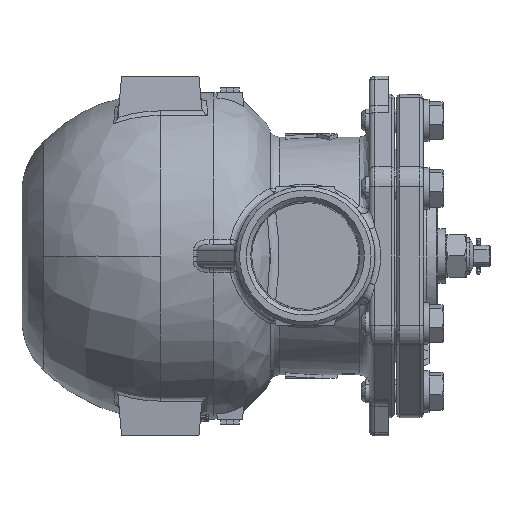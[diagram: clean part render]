
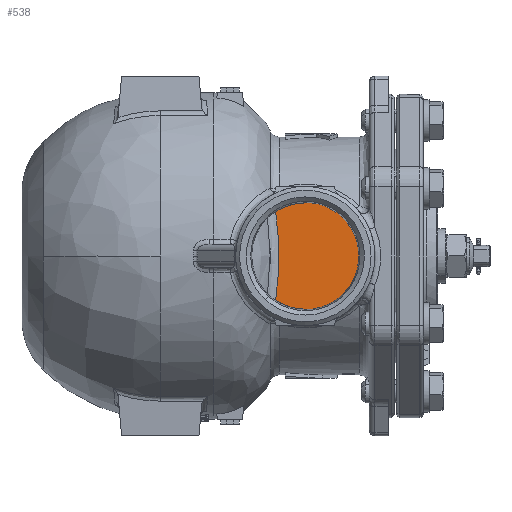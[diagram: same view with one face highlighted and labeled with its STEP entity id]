
A CAD part, left-side view. The second image highlights one B-rep face of the part: STEP entity #538.
In plain terms, the highlighted planar face has unit normal (-1, 0, 0) as drawn and (0, 1, 0) by its records, which use the part's own axes.
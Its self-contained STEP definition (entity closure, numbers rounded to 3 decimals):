
#538=ADVANCED_FACE('',(#1668),#1667,.T.);
#1667=PLANE('',#9346);
#1668=FACE_OUTER_BOUND('',#9347,.T.);
#9343=CARTESIAN_POINT('',(-110.086,61.5,-36.58));
#9344=DIRECTION('',(0.,1.,0.));
#9345=DIRECTION('',(0.,0.,1.));
#9346=AXIS2_PLACEMENT_3D('',#9343,#9344,#9345);
#9347=EDGE_LOOP('',(#22750,#22751,#22752,#22753,#22754,#22755,#22756,#22757,#22758));
#22750=ORIENTED_EDGE('',*,*,#27443,.T.);
#22751=ORIENTED_EDGE('',*,*,#27284,.T.);
#22752=ORIENTED_EDGE('',*,*,#27444,.F.);
#22753=ORIENTED_EDGE('',*,*,#27445,.F.);
#22754=ORIENTED_EDGE('',*,*,#27446,.F.);
#22755=ORIENTED_EDGE('',*,*,#27447,.F.);
#22756=ORIENTED_EDGE('',*,*,#27448,.F.);
#22757=ORIENTED_EDGE('',*,*,#27449,.F.);
#22758=ORIENTED_EDGE('',*,*,#27290,.T.);
#27284=EDGE_CURVE('',#29890,#29882,#29891,.T.);
#27290=EDGE_CURVE('',#29911,#29925,#29932,.T.);
#27443=EDGE_CURVE('',#29925,#29890,#30971,.T.);
#27444=EDGE_CURVE('',#30977,#29882,#30978,.T.);
#27445=EDGE_CURVE('',#30984,#30977,#30985,.T.);
#27446=EDGE_CURVE('',#30991,#30984,#30992,.T.);
#27447=EDGE_CURVE('',#30998,#30991,#30999,.T.);
#27448=EDGE_CURVE('',#31005,#30998,#31006,.T.);
#27449=EDGE_CURVE('',#29911,#31005,#31012,.T.);
#29882=VERTEX_POINT('',#45738);
#29890=VERTEX_POINT('',#45748);
#29891=(BOUNDED_CURVE() B_SPLINE_CURVE(3,(#45749,#45750,#45751,#45752,#45753,#45754,#45755),.UNSPECIFIED.,.F.,.F.) B_SPLINE_CURVE_WITH_KNOTS((4,1,1,1,4),(0.,4.055,8.38,12.705,17.3),.UNSPECIFIED.) CURVE() GEOMETRIC_REPRESENTATION_ITEM() RATIONAL_B_SPLINE_CURVE((1.,1.,1.,1.,1.,1.,1.)) REPRESENTATION_ITEM('') );
#29911=VERTEX_POINT('',#45772);
#29925=VERTEX_POINT('',#45789);
#29932=(BOUNDED_CURVE() B_SPLINE_CURVE(3,(#45794,#45795,#45796,#45797,#45798,#45799,#45800),.UNSPECIFIED.,.F.,.F.) B_SPLINE_CURVE_WITH_KNOTS((4,1,1,1,4),(0.,4.866,8.92,13.516,17.3),.UNSPECIFIED.) CURVE() GEOMETRIC_REPRESENTATION_ITEM() RATIONAL_B_SPLINE_CURVE((1.,1.,1.,1.,1.,1.,1.)) REPRESENTATION_ITEM('') );
#30971=(BOUNDED_CURVE() B_SPLINE_CURVE(3,(#46659,#46660,#46661,#46662,#46663,#46664,#46665,#46666,#46667,#46668),.UNSPECIFIED.,.F.,.F.) B_SPLINE_CURVE_WITH_KNOTS((4,2,2,2,4),(0.,0.25,0.5,0.75,1.),.UNSPECIFIED.) CURVE() GEOMETRIC_REPRESENTATION_ITEM() RATIONAL_B_SPLINE_CURVE((1.,1.,1.,1.,1.,1.,1.,1.,1.,1.)) REPRESENTATION_ITEM('') );
#30977=VERTEX_POINT('',#46669);
#30978=LINE('',#46670,#46671);
#30984=VERTEX_POINT('',#46673);
#30985=(BOUNDED_CURVE() B_SPLINE_CURVE(3,(#46674,#46675,#46676,#46677,#46678,#46679,#46680,#46681),.UNSPECIFIED.,.F.,.F.) B_SPLINE_CURVE_WITH_KNOTS((4,1,1,1,1,4),(23.753,24.921,30.051,34.449,38.114,46.909),.UNSPECIFIED.) CURVE() GEOMETRIC_REPRESENTATION_ITEM() RATIONAL_B_SPLINE_CURVE((1.,1.,1.,1.,1.,1.,1.,1.)) REPRESENTATION_ITEM('') );
#30991=VERTEX_POINT('',#46682);
#30992=(BOUNDED_CURVE() B_SPLINE_CURVE(3,(#46683,#46684,#46685,#46686,#46687,#46688,#46689,#46690),.UNSPECIFIED.,.F.,.F.) B_SPLINE_CURVE_WITH_KNOTS((4,1,1,1,1,4),(0.,4.764,10.628,15.026,18.324,23.753),.UNSPECIFIED.) CURVE() GEOMETRIC_REPRESENTATION_ITEM() RATIONAL_B_SPLINE_CURVE((1.,1.,1.,1.,1.,1.,1.,1.)) REPRESENTATION_ITEM('') );
#30998=VERTEX_POINT('',#46691);
#30999=(BOUNDED_CURVE() B_SPLINE_CURVE(3,(#46692,#46693,#46694,#46695,#46696,#46697,#46698,#46699),.UNSPECIFIED.,.F.,.F.) B_SPLINE_CURVE_WITH_KNOTS((4,1,1,1,1,4),(0.,5.284,8.681,13.965,19.627,24.156),.UNSPECIFIED.) CURVE() GEOMETRIC_REPRESENTATION_ITEM() RATIONAL_B_SPLINE_CURVE((1.,1.,1.,1.,1.,1.,1.,1.)) REPRESENTATION_ITEM('') );
#31005=VERTEX_POINT('',#46700);
#31006=(BOUNDED_CURVE() B_SPLINE_CURVE(3,(#46701,#46702,#46703,#46704,#46705,#46706,#46707),.UNSPECIFIED.,.F.,.F.) B_SPLINE_CURVE_WITH_KNOTS((4,1,1,1,4),(0.,4.622,9.599,14.576,22.753),.UNSPECIFIED.) CURVE() GEOMETRIC_REPRESENTATION_ITEM() RATIONAL_B_SPLINE_CURVE((1.,1.,1.,1.,1.,1.,1.)) REPRESENTATION_ITEM('') );
#31012=LINE('',#46708,#46709);
#45738=CARTESIAN_POINT('',(-76.,61.5,-27.482));
#45748=CARTESIAN_POINT('',(-59.638,61.5,-22.809));
#45749=CARTESIAN_POINT('',(-59.638,61.5,-22.809));
#45750=CARTESIAN_POINT('',(-60.759,61.5,-23.564));
#45751=CARTESIAN_POINT('',(-63.191,61.5,-24.953));
#45752=CARTESIAN_POINT('',(-67.157,61.5,-26.476));
#45753=CARTESIAN_POINT('',(-71.489,61.5,-27.397));
#45754=CARTESIAN_POINT('',(-74.469,61.5,-27.538));
#45755=CARTESIAN_POINT('',(-76.,61.5,-27.482));
#45772=CARTESIAN_POINT('',(-76.,61.5,27.482));
#45789=CARTESIAN_POINT('',(-59.638,61.5,22.809));
#45794=CARTESIAN_POINT('',(-76.,61.5,27.482));
#45795=CARTESIAN_POINT('',(-74.379,61.5,27.541));
#45796=CARTESIAN_POINT('',(-71.398,61.5,27.385));
#45797=CARTESIAN_POINT('',(-66.984,61.5,26.425));
#45798=CARTESIAN_POINT('',(-63.109,61.5,24.915));
#45799=CARTESIAN_POINT('',(-60.684,61.5,23.514));
#45800=CARTESIAN_POINT('',(-59.638,61.5,22.809));
#46659=CARTESIAN_POINT('',(-59.638,61.5,22.809));
#46660=CARTESIAN_POINT('',(-60.293,61.5,19.061));
#46661=CARTESIAN_POINT('',(-60.726,61.5,15.26));
#46662=CARTESIAN_POINT('',(-61.287,61.5,7.614));
#46663=CARTESIAN_POINT('',(-61.413,61.5,3.785));
#46664=CARTESIAN_POINT('',(-61.411,61.5,-3.883));
#46665=CARTESIAN_POINT('',(-61.282,61.5,-7.699));
#46666=CARTESIAN_POINT('',(-60.723,61.5,-15.29));
#46667=CARTESIAN_POINT('',(-60.292,61.5,-19.065));
#46668=CARTESIAN_POINT('',(-59.638,61.5,-22.809));
#46669=CARTESIAN_POINT('',(-76.,61.5,-30.484));
#46670=CARTESIAN_POINT('',(-76.,61.5,-30.484));
#46671=VECTOR('',#46672,3.002);
#46672=DIRECTION('',(0.,0.,1.));
#46673=CARTESIAN_POINT('',(-96.709,61.5,-21.424));
#46674=CARTESIAN_POINT('',(-96.709,61.5,-21.424));
#46675=CARTESIAN_POINT('',(-96.436,61.5,-21.701));
#46676=CARTESIAN_POINT('',(-94.932,61.5,-23.167));
#46677=CARTESIAN_POINT('',(-92.127,61.5,-25.388));
#46678=CARTESIAN_POINT('',(-88.286,61.5,-27.553));
#46679=CARTESIAN_POINT('',(-83.061,61.5,-29.648));
#46680=CARTESIAN_POINT('',(-78.93,61.5,-30.389));
#46681=CARTESIAN_POINT('',(-76.,61.5,-30.484));
#46682=CARTESIAN_POINT('',(-105.5,61.5,0.));
#46683=CARTESIAN_POINT('',(-105.5,61.5,0.));
#46684=CARTESIAN_POINT('',(-105.5,61.5,-1.588));
#46685=CARTESIAN_POINT('',(-105.223,61.5,-5.131));
#46686=CARTESIAN_POINT('',(-103.967,61.5,-10.003));
#46687=CARTESIAN_POINT('',(-102.116,61.5,-14.14));
#46688=CARTESIAN_POINT('',(-99.839,61.5,-17.883));
#46689=CARTESIAN_POINT('',(-97.98,61.5,-20.135));
#46690=CARTESIAN_POINT('',(-96.709,61.5,-21.424));
#46691=CARTESIAN_POINT('',(-96.424,61.5,21.709));
#46692=CARTESIAN_POINT('',(-96.424,61.5,21.709));
#46693=CARTESIAN_POINT('',(-97.678,61.5,20.472));
#46694=CARTESIAN_POINT('',(-99.56,61.5,18.26));
#46695=CARTESIAN_POINT('',(-102.049,61.5,14.318));
#46696=CARTESIAN_POINT('',(-104.009,61.5,9.937));
#46697=CARTESIAN_POINT('',(-105.247,61.5,4.907));
#46698=CARTESIAN_POINT('',(-105.5,61.5,1.51));
#46699=CARTESIAN_POINT('',(-105.5,61.5,0.));
#46700=CARTESIAN_POINT('',(-76.,61.5,30.484));
#46701=CARTESIAN_POINT('',(-76.,61.5,30.484));
#46702=CARTESIAN_POINT('',(-77.54,61.5,30.433));
#46703=CARTESIAN_POINT('',(-80.73,61.5,30.085));
#46704=CARTESIAN_POINT('',(-85.433,61.5,28.804));
#46705=CARTESIAN_POINT('',(-90.947,61.5,26.282));
#46706=CARTESIAN_POINT('',(-94.484,61.5,23.624));
#46707=CARTESIAN_POINT('',(-96.424,61.5,21.709));
#46708=CARTESIAN_POINT('',(-76.,61.5,27.482));
#46709=VECTOR('',#46710,3.002);
#46710=DIRECTION('',(0.,0.,1.));
